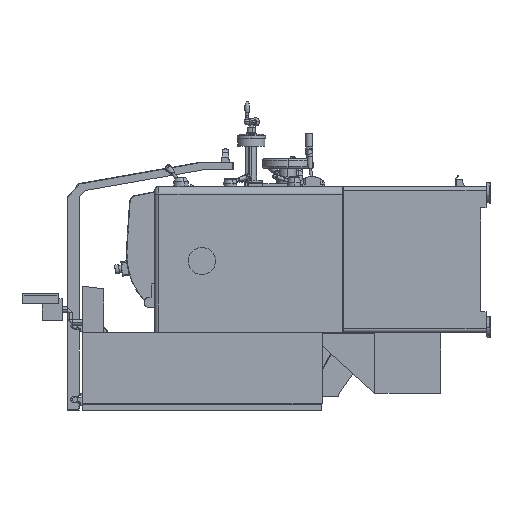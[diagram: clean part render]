
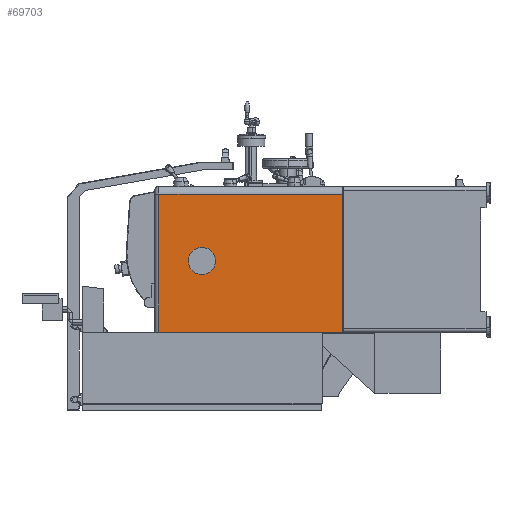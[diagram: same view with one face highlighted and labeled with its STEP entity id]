
A CAD part, left-side view. The second image highlights one B-rep face of the part: STEP entity #69703.
In plain terms, the highlighted planar face has unit normal (-1, 0, 0).
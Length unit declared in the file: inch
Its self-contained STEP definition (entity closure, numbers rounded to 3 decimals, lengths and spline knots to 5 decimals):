
#2536 = FACE_OUTER_BOUND ( 'NONE', #57778, .T. ) ;
#40064 = EDGE_CURVE ( 'NONE', #250822, #309433, #43954, .T. ) ;
#43954 = LINE ( 'NONE', #196677, #242141 ) ;
#47675 = CARTESIAN_POINT ( 'NONE',  ( -0.03937, 22.04724, -21.7126 ) ) ;
#57778 = EDGE_LOOP ( 'NONE', ( #74901, #371264, #247749, #89954 ) ) ;
#69703 = ADVANCED_FACE ( 'NONE', ( #2536 ), #328578, .F. ) ;
#74901 = ORIENTED_EDGE ( 'NONE', *, *, #281382, .F. ) ;
#75384 = EDGE_CURVE ( 'NONE', #284606, #250822, #369573, .T. ) ;
#84943 = CARTESIAN_POINT ( 'NONE',  ( -0.03937, 22.04724, -21.7126 ) ) ;
#89954 = ORIENTED_EDGE ( 'NONE', *, *, #40064, .T. ) ;
#107950 = DIRECTION ( 'NONE',  ( 0., -1., 0. ) ) ;
#109171 = VECTOR ( 'NONE', #107950, 39.37008 ) ;
#124592 = CARTESIAN_POINT ( 'NONE',  ( -0.03937, 22.04724, 0.05906 ) ) ;
#191967 = VECTOR ( 'NONE', #236873, 39.37008 ) ;
#196677 = CARTESIAN_POINT ( 'NONE',  ( -0.03937, 22.04724, -1.12205 ) ) ;
#228780 = DIRECTION ( 'NONE',  ( 0., 1., 0. ) ) ;
#229423 = EDGE_CURVE ( 'NONE', #240353, #284606, #292736, .T. ) ;
#234224 = DIRECTION ( 'NONE',  ( 1., 0., 0. ) ) ;
#236873 = DIRECTION ( 'NONE',  ( 0., 0., 1. ) ) ;
#240353 = VERTEX_POINT ( 'NONE', #252594 ) ;
#242141 = VECTOR ( 'NONE', #228780, 39.37008 ) ;
#247749 = ORIENTED_EDGE ( 'NONE', *, *, #75384, .T. ) ;
#250822 = VERTEX_POINT ( 'NONE', #310760 ) ;
#252594 = CARTESIAN_POINT ( 'NONE',  ( -0.03937, 49.44882, -21.7126 ) ) ;
#265045 = LINE ( 'NONE', #293202, #191967 ) ;
#268252 = DIRECTION ( 'NONE',  ( 0., 0., -1. ) ) ;
#275858 = CARTESIAN_POINT ( 'NONE',  ( -0.03937, 49.44882, -1.12205 ) ) ;
#281382 = EDGE_CURVE ( 'NONE', #240353, #309433, #265045, .T. ) ;
#284606 = VERTEX_POINT ( 'NONE', #84943 ) ;
#292736 = LINE ( 'NONE', #47675, #109171 ) ;
#293202 = CARTESIAN_POINT ( 'NONE',  ( -0.03937, 49.44882, -21.90945 ) ) ;
#302386 = CARTESIAN_POINT ( 'NONE',  ( -0.03937, 22.04724, -21.7126 ) ) ;
#309433 = VERTEX_POINT ( 'NONE', #275858 ) ;
#310760 = CARTESIAN_POINT ( 'NONE',  ( -0.03937, 22.04724, -1.12205 ) ) ;
#328578 = PLANE ( 'NONE',  #384043 ) ;
#335511 = DIRECTION ( 'NONE',  ( 0., 0., 1. ) ) ;
#348527 = VECTOR ( 'NONE', #335511, 39.37008 ) ;
#369573 = LINE ( 'NONE', #124592, #348527 ) ;
#371264 = ORIENTED_EDGE ( 'NONE', *, *, #229423, .T. ) ;
#384043 = AXIS2_PLACEMENT_3D ( 'NONE', #302386, #234224, #268252 ) ;
